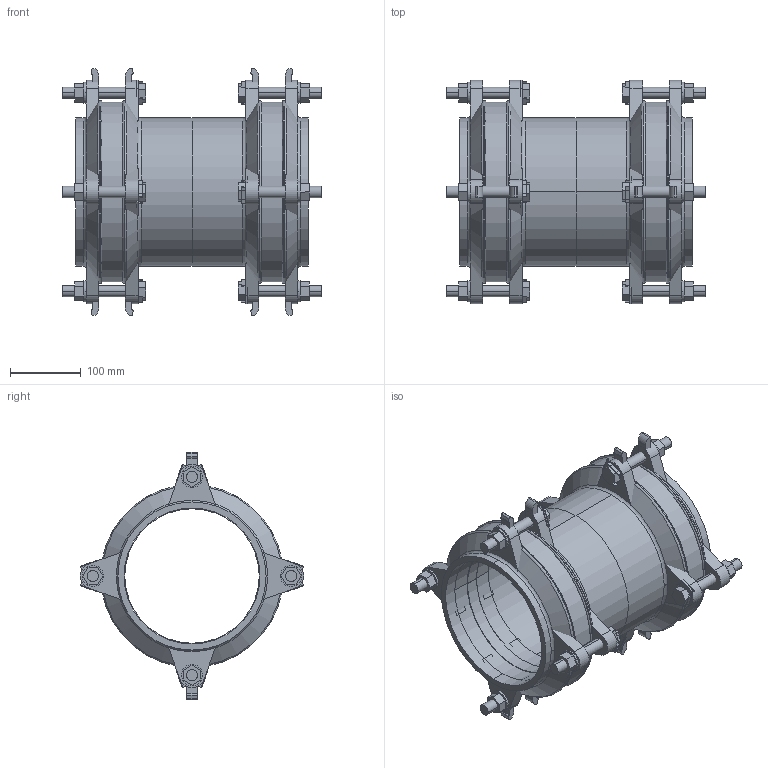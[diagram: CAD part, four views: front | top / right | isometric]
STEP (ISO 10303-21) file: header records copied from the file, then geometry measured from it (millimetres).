
FILE_DESCRIPTION(('STEP AP214'),'1');
FILE_NAME('MJ000049 DN 150.STP','2015-02-06T12:10:44',(' '),(' '),'Spatial InterOp 3D',' ',' ');
FILE_SCHEMA(('automotive_design'));
Length unit declared in the file: millimetre
Products named in the file (82): 3D-Objekt
Bounding box: 367 x 315.52 x 350 mm (x, y, z)
Volume: 4338916 mm3; surface area: 1132666.2 mm2
Topology: 82 solids, 82 shells, 636 faces, 1412 edges, 940 vertices
Faces by surface type: plane 444, cylinder 152, torus 24, cone 16
Entity records: 24604 total; most frequent: DIRECTION 3252, CARTESIAN_POINT 3070, ORIENTED_EDGE 2824, EDGE_CURVE 1412, AXIS2_PLACEMENT_3D 1122, LINE 1008, VECTOR 1008, VERTEX_POINT 940
